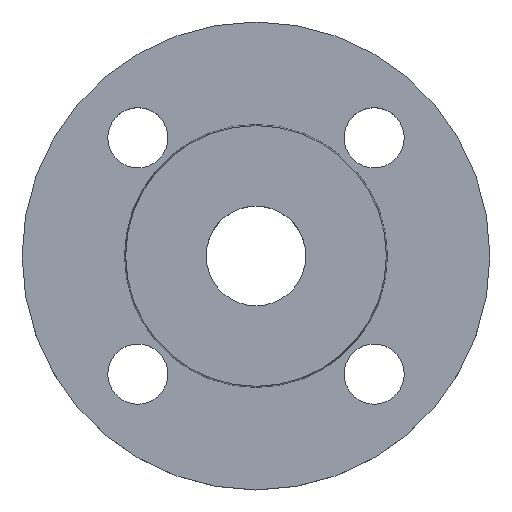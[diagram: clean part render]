
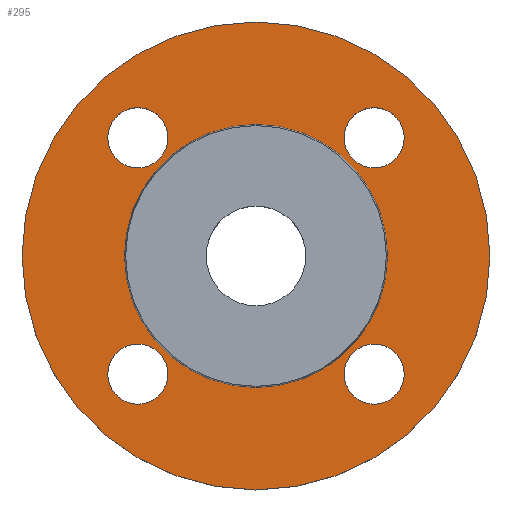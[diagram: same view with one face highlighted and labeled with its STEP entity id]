
A CAD part, top view. The second image highlights one B-rep face of the part: STEP entity #295.
In plain terms, the highlighted planar face has unit normal (0, 0, 1).
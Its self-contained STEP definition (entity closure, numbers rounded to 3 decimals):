
#9 = CARTESIAN_POINT ( 'NONE',  ( -70., 0., -2. ) ) ;
#12 = DIRECTION ( 'NONE',  ( 1., 0., 0. ) ) ;
#17 = AXIS2_PLACEMENT_3D ( 'NONE', #207, #419, #664 ) ;
#19 = ORIENTED_EDGE ( 'NONE', *, *, #346, .T. ) ;
#20 = DIRECTION ( 'NONE',  ( 0., 0., -1. ) ) ;
#21 = AXIS2_PLACEMENT_3D ( 'NONE', #542, #46, #264 ) ;
#25 = DIRECTION ( 'NONE',  ( 0., 0., -1. ) ) ;
#29 = DIRECTION ( 'NONE',  ( 0., 0., -1. ) ) ;
#35 = VERTEX_POINT ( 'NONE', #700 ) ;
#39 = DIRECTION ( 'NONE',  ( 1., 0., 0. ) ) ;
#40 = EDGE_CURVE ( 'NONE', #120, #674, #611, .T. ) ;
#46 = DIRECTION ( 'NONE',  ( 0., 0., -1. ) ) ;
#63 = DIRECTION ( 'NONE',  ( 1., 0., 0. ) ) ;
#80 = DIRECTION ( 'NONE',  ( -1., 0., 0. ) ) ;
#85 = CIRCLE ( 'NONE', #174, 70. ) ;
#99 = VERTEX_POINT ( 'NONE', #600 ) ;
#111 = FACE_BOUND ( 'NONE', #508, .T. ) ;
#120 = VERTEX_POINT ( 'NONE', #420 ) ;
#121 = PLANE ( 'NONE',  #187 ) ;
#127 = CARTESIAN_POINT ( 'NONE',  ( -35.355, 35.355, -2. ) ) ;
#128 = ORIENTED_EDGE ( 'NONE', *, *, #40, .T. ) ;
#131 = ORIENTED_EDGE ( 'NONE', *, *, #638, .F. ) ;
#141 = EDGE_CURVE ( 'NONE', #99, #371, #417, .T. ) ;
#143 = CIRCLE ( 'NONE', #549, 9. ) ;
#145 = VERTEX_POINT ( 'NONE', #487 ) ;
#169 = VERTEX_POINT ( 'NONE', #366 ) ;
#173 = FACE_BOUND ( 'NONE', #176, .T. ) ;
#174 = AXIS2_PLACEMENT_3D ( 'NONE', #345, #583, #80 ) ;
#176 = EDGE_LOOP ( 'NONE', ( #278, #686 ) ) ;
#185 = CARTESIAN_POINT ( 'NONE',  ( 35.355, 35.355, -2. ) ) ;
#187 = AXIS2_PLACEMENT_3D ( 'NONE', #332, #568, #63 ) ;
#188 = CARTESIAN_POINT ( 'NONE',  ( -39.353, 0., -2. ) ) ;
#192 = AXIS2_PLACEMENT_3D ( 'NONE', #277, #506, #12 ) ;
#193 = CARTESIAN_POINT ( 'NONE',  ( -35.355, -35.355, -2. ) ) ;
#195 = AXIS2_PLACEMENT_3D ( 'NONE', #193, #402, #650 ) ;
#207 = CARTESIAN_POINT ( 'NONE',  ( 35.355, -35.355, -2. ) ) ;
#226 = CARTESIAN_POINT ( 'NONE',  ( 70., 0., -2. ) ) ;
#229 = CIRCLE ( 'NONE', #657, 9. ) ;
#237 = DIRECTION ( 'NONE',  ( -1., 0., 0. ) ) ;
#243 = DIRECTION ( 'NONE',  ( -1., 0., 0. ) ) ;
#245 = AXIS2_PLACEMENT_3D ( 'NONE', #515, #20, #237 ) ;
#247 = DIRECTION ( 'NONE',  ( 1., 0., 0. ) ) ;
#256 = CARTESIAN_POINT ( 'NONE',  ( 35.355, -35.355, -2. ) ) ;
#264 = DIRECTION ( 'NONE',  ( -1., 0., 0. ) ) ;
#267 = ORIENTED_EDGE ( 'NONE', *, *, #326, .F. ) ;
#269 = AXIS2_PLACEMENT_3D ( 'NONE', #526, #29, #247 ) ;
#273 = EDGE_LOOP ( 'NONE', ( #707, #702 ) ) ;
#277 = CARTESIAN_POINT ( 'NONE',  ( -35.355, -35.355, -2. ) ) ;
#278 = ORIENTED_EDGE ( 'NONE', *, *, #614, .T. ) ;
#282 = ORIENTED_EDGE ( 'NONE', *, *, #567, .T. ) ;
#295 = ADVANCED_FACE ( 'NONE', ( #621, #111, #321, #173, #385, #634 ), #121, .T. ) ;
#299 = CIRCLE ( 'NONE', #722, 39.353 ) ;
#304 = CARTESIAN_POINT ( 'NONE',  ( 35.355, 35.355, -2. ) ) ;
#315 = VERTEX_POINT ( 'NONE', #389 ) ;
#316 = CIRCLE ( 'NONE', #17, 9. ) ;
#321 = FACE_BOUND ( 'NONE', #547, .T. ) ;
#323 = CARTESIAN_POINT ( 'NONE',  ( -26.355, 35.355, -2. ) ) ;
#325 = CIRCLE ( 'NONE', #427, 9. ) ;
#326 = EDGE_CURVE ( 'NONE', #579, #500, #558, .T. ) ;
#332 = CARTESIAN_POINT ( 'NONE',  ( 39.353, 0., -2. ) ) ;
#339 = DIRECTION ( 'NONE',  ( 0., 0., -1. ) ) ;
#345 = CARTESIAN_POINT ( 'NONE',  ( 0., 0., -2. ) ) ;
#346 = EDGE_CURVE ( 'NONE', #525, #35, #325, .T. ) ;
#363 = ORIENTED_EDGE ( 'NONE', *, *, #444, .T. ) ;
#366 = CARTESIAN_POINT ( 'NONE',  ( 44.355, 35.355, -2. ) ) ;
#371 = VERTEX_POINT ( 'NONE', #188 ) ;
#385 = FACE_BOUND ( 'NONE', #273, .T. ) ;
#389 = CARTESIAN_POINT ( 'NONE',  ( 26.355, -35.355, -2. ) ) ;
#393 = DIRECTION ( 'NONE',  ( 0., 0., -1. ) ) ;
#402 = DIRECTION ( 'NONE',  ( 0., 0., -1. ) ) ;
#417 = CIRCLE ( 'NONE', #21, 39.353 ) ;
#419 = DIRECTION ( 'NONE',  ( 0., 0., -1. ) ) ;
#420 = CARTESIAN_POINT ( 'NONE',  ( -26.355, -35.355, -2. ) ) ;
#427 = AXIS2_PLACEMENT_3D ( 'NONE', #127, #339, #575 ) ;
#429 = CIRCLE ( 'NONE', #530, 9. ) ;
#435 = ORIENTED_EDGE ( 'NONE', *, *, #442, .T. ) ;
#437 = EDGE_CURVE ( 'NONE', #145, #169, #143, .T. ) ;
#442 = EDGE_CURVE ( 'NONE', #315, #685, #229, .T. ) ;
#444 = EDGE_CURVE ( 'NONE', #685, #315, #316, .T. ) ;
#472 = CARTESIAN_POINT ( 'NONE',  ( -44.355, -35.355, -2. ) ) ;
#480 = ORIENTED_EDGE ( 'NONE', *, *, #665, .T. ) ;
#481 = DIRECTION ( 'NONE',  ( 0., 0., -1. ) ) ;
#487 = CARTESIAN_POINT ( 'NONE',  ( 26.355, 35.355, -2. ) ) ;
#500 = VERTEX_POINT ( 'NONE', #9 ) ;
#502 = CIRCLE ( 'NONE', #192, 9. ) ;
#506 = DIRECTION ( 'NONE',  ( 0., 0., -1. ) ) ;
#508 = EDGE_LOOP ( 'NONE', ( #128, #282 ) ) ;
#511 = EDGE_LOOP ( 'NONE', ( #267, #131 ) ) ;
#515 = CARTESIAN_POINT ( 'NONE',  ( 0., 0., -2. ) ) ;
#525 = VERTEX_POINT ( 'NONE', #323 ) ;
#526 = CARTESIAN_POINT ( 'NONE',  ( -35.355, 35.355, -2. ) ) ;
#530 = AXIS2_PLACEMENT_3D ( 'NONE', #185, #393, #643 ) ;
#538 = DIRECTION ( 'NONE',  ( 0., 0., -1. ) ) ;
#542 = CARTESIAN_POINT ( 'NONE',  ( 0., 0., -2. ) ) ;
#547 = EDGE_LOOP ( 'NONE', ( #19, #480 ) ) ;
#549 = AXIS2_PLACEMENT_3D ( 'NONE', #304, #538, #39 ) ;
#558 = CIRCLE ( 'NONE', #245, 70. ) ;
#567 = EDGE_CURVE ( 'NONE', #674, #120, #502, .T. ) ;
#568 = DIRECTION ( 'NONE',  ( 0., 0., 1. ) ) ;
#575 = DIRECTION ( 'NONE',  ( 1., 0., 0. ) ) ;
#577 = CARTESIAN_POINT ( 'NONE',  ( 0., 0., -2. ) ) ;
#579 = VERTEX_POINT ( 'NONE', #226 ) ;
#583 = DIRECTION ( 'NONE',  ( 0., 0., -1. ) ) ;
#592 = CIRCLE ( 'NONE', #269, 9. ) ;
#600 = CARTESIAN_POINT ( 'NONE',  ( 39.353, 0., -2. ) ) ;
#611 = CIRCLE ( 'NONE', #195, 9. ) ;
#614 = EDGE_CURVE ( 'NONE', #169, #145, #429, .T. ) ;
#621 = FACE_BOUND ( 'NONE', #636, .T. ) ;
#626 = EDGE_CURVE ( 'NONE', #371, #99, #299, .T. ) ;
#634 = FACE_OUTER_BOUND ( 'NONE', #511, .T. ) ;
#636 = EDGE_LOOP ( 'NONE', ( #363, #435 ) ) ;
#638 = EDGE_CURVE ( 'NONE', #500, #579, #85, .T. ) ;
#643 = DIRECTION ( 'NONE',  ( 1., 0., 0. ) ) ;
#650 = DIRECTION ( 'NONE',  ( 1., 0., 0. ) ) ;
#657 = AXIS2_PLACEMENT_3D ( 'NONE', #256, #481, #712 ) ;
#664 = DIRECTION ( 'NONE',  ( 1., 0., 0. ) ) ;
#665 = EDGE_CURVE ( 'NONE', #35, #525, #592, .T. ) ;
#674 = VERTEX_POINT ( 'NONE', #472 ) ;
#685 = VERTEX_POINT ( 'NONE', #703 ) ;
#686 = ORIENTED_EDGE ( 'NONE', *, *, #437, .T. ) ;
#700 = CARTESIAN_POINT ( 'NONE',  ( -44.355, 35.355, -2. ) ) ;
#702 = ORIENTED_EDGE ( 'NONE', *, *, #141, .T. ) ;
#703 = CARTESIAN_POINT ( 'NONE',  ( 44.355, -35.355, -2. ) ) ;
#707 = ORIENTED_EDGE ( 'NONE', *, *, #626, .T. ) ;
#712 = DIRECTION ( 'NONE',  ( 1., 0., 0. ) ) ;
#722 = AXIS2_PLACEMENT_3D ( 'NONE', #577, #25, #243 ) ;
